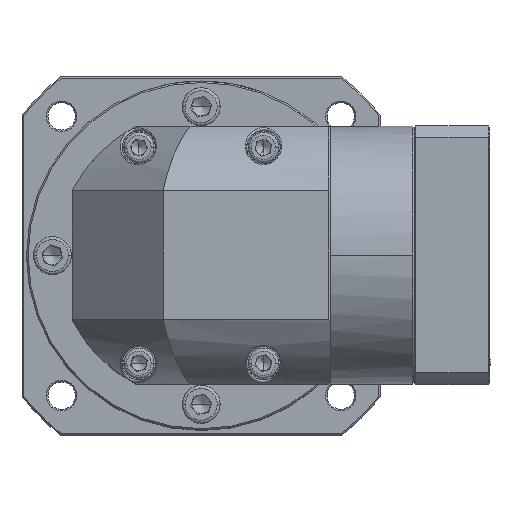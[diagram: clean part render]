
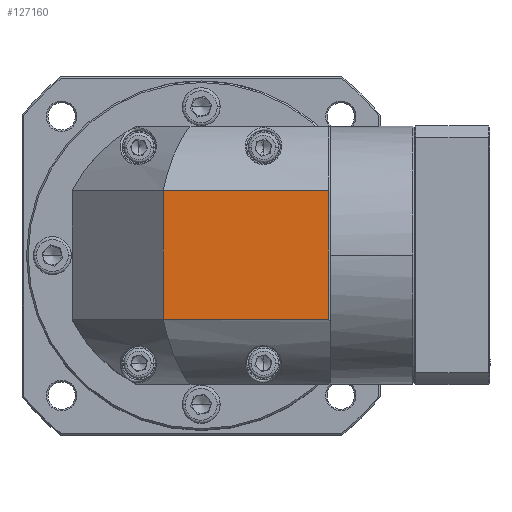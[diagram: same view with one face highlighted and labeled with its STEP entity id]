
A CAD part, top view. The second image highlights one B-rep face of the part: STEP entity #127160.
In plain terms, the highlighted planar face has unit normal (0, 0, 1).
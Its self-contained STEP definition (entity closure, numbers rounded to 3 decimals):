
#7162 = CARTESIAN_POINT ( 'NONE',  ( 58.796, 42.085, 46.682 ) ) ;
#11686 = ORIENTED_EDGE ( 'NONE', *, *, #25509, .F. ) ;
#14003 = CARTESIAN_POINT ( 'NONE',  ( 58.796, 63.298, 46.682 ) ) ;
#16429 = VECTOR ( 'NONE', #60672, 1000. ) ;
#22674 = EDGE_LOOP ( 'NONE', ( #98924, #11686, #80939, #74665 ) ) ;
#25509 = EDGE_CURVE ( 'NONE', #29731, #139513, #103408, .T. ) ;
#25580 = FACE_OUTER_BOUND ( 'NONE', #22674, .T. ) ;
#28273 = CARTESIAN_POINT ( 'NONE',  ( 113.296, 84.511, 46.682 ) ) ;
#28692 = AXIS2_PLACEMENT_3D ( 'NONE', #139605, #64849, #42143 ) ;
#29731 = VERTEX_POINT ( 'NONE', #7162 ) ;
#31220 = PLANE ( 'NONE',  #28692 ) ;
#34734 = CARTESIAN_POINT ( 'NONE',  ( 58.796, 84.511, 46.682 ) ) ;
#36519 = CARTESIAN_POINT ( 'NONE',  ( 113.296, 63.298, 46.682 ) ) ;
#42143 = DIRECTION ( 'NONE',  ( 1., 0., 0. ) ) ;
#46993 = DIRECTION ( 'NONE',  ( 0., 1., 0. ) ) ;
#53758 = VERTEX_POINT ( 'NONE', #28273 ) ;
#56182 = DIRECTION ( 'NONE',  ( 0., 1., 0. ) ) ;
#60672 = DIRECTION ( 'NONE',  ( -1., 0., 0. ) ) ;
#60803 = CARTESIAN_POINT ( 'NONE',  ( 13.296, 84.511, 46.682 ) ) ;
#62876 = VECTOR ( 'NONE', #56182, 1000. ) ;
#64849 = DIRECTION ( 'NONE',  ( 0., 0., 1. ) ) ;
#67267 = CARTESIAN_POINT ( 'NONE',  ( 113.296, 42.085, 46.682 ) ) ;
#67830 = VERTEX_POINT ( 'NONE', #67267 ) ;
#69438 = LINE ( 'NONE', #36519, #133784 ) ;
#72044 = VECTOR ( 'NONE', #104712, 1000. ) ;
#73997 = LINE ( 'NONE', #125969, #16429 ) ;
#74665 = ORIENTED_EDGE ( 'NONE', *, *, #122012, .T. ) ;
#80939 = ORIENTED_EDGE ( 'NONE', *, *, #111821, .F. ) ;
#98924 = ORIENTED_EDGE ( 'NONE', *, *, #115956, .F. ) ;
#103408 = LINE ( 'NONE', #14003, #62876 ) ;
#104712 = DIRECTION ( 'NONE',  ( 1., 0., 0. ) ) ;
#111821 = EDGE_CURVE ( 'NONE', #67830, #29731, #73997, .T. ) ;
#115956 = EDGE_CURVE ( 'NONE', #139513, #53758, #136414, .T. ) ;
#122012 = EDGE_CURVE ( 'NONE', #67830, #53758, #69438, .T. ) ;
#125969 = CARTESIAN_POINT ( 'NONE',  ( 13.296, 42.085, 46.682 ) ) ;
#127160 = ADVANCED_FACE ( 'NONE', ( #25580 ), #31220, .T. ) ;
#133784 = VECTOR ( 'NONE', #46993, 1000. ) ;
#136414 = LINE ( 'NONE', #60803, #72044 ) ;
#139513 = VERTEX_POINT ( 'NONE', #34734 ) ;
#139605 = CARTESIAN_POINT ( 'NONE',  ( 71.296, 63.298, 46.682 ) ) ;
